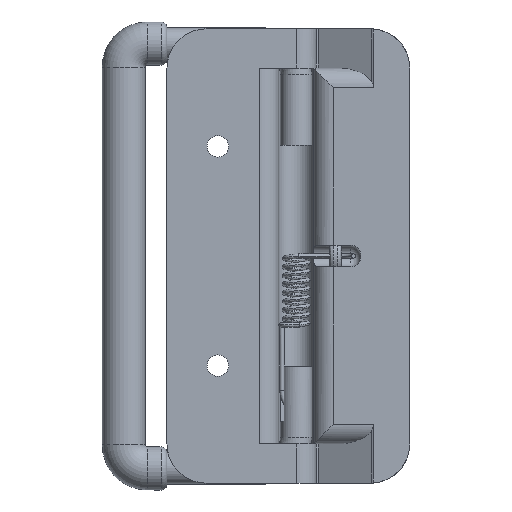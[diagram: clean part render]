
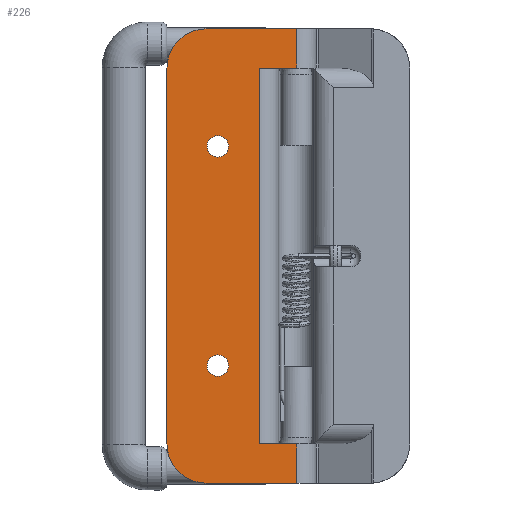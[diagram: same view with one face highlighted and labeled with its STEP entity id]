
A CAD part, front view. The second image highlights one B-rep face of the part: STEP entity #226.
In plain terms, the highlighted planar face has unit normal (0, -1, 0).
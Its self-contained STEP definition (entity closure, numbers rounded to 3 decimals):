
#52 = AXIS2_PLACEMENT_3D ( 'NONE', #3035, #8681, #3200 ) ;
#148 = CARTESIAN_POINT ( 'NONE',  ( -9.462, -2., -48. ) ) ;
#226 = ADVANCED_FACE ( 'NONE', ( #8736, #5575, #3092 ), #7951, .F. ) ;
#231 = DIRECTION ( 'NONE',  ( -1., 0., 0. ) ) ;
#327 = CARTESIAN_POINT ( 'NONE',  ( 0.14, -2., -48. ) ) ;
#331 = VERTEX_POINT ( 'NONE', #8163 ) ;
#386 = ORIENTED_EDGE ( 'NONE', *, *, #3118, .T. ) ;
#669 = CARTESIAN_POINT ( 'NONE',  ( -33., -2., 58. ) ) ;
#791 = DIRECTION ( 'NONE',  ( -1., 0., 0. ) ) ;
#924 = EDGE_CURVE ( 'NONE', #9336, #7228, #2608, .T. ) ;
#981 = EDGE_LOOP ( 'NONE', ( #7020, #6661 ) ) ;
#987 = DIRECTION ( 'NONE',  ( 0., 0., 1. ) ) ;
#1075 = VERTEX_POINT ( 'NONE', #7720 ) ;
#1170 = ORIENTED_EDGE ( 'NONE', *, *, #924, .T. ) ;
#1187 = DIRECTION ( 'NONE',  ( 0., 0., 1. ) ) ;
#1223 = CIRCLE ( 'NONE', #1731, 2.75 ) ;
#1293 = DIRECTION ( 'NONE',  ( 0., -1., 0. ) ) ;
#1338 = CARTESIAN_POINT ( 'NONE',  ( -20., -2., -28. ) ) ;
#1435 = AXIS2_PLACEMENT_3D ( 'NONE', #8571, #1293, #1187 ) ;
#1731 = AXIS2_PLACEMENT_3D ( 'NONE', #6306, #4617, #7836 ) ;
#1853 = VECTOR ( 'NONE', #2200, 1000. ) ;
#1934 = EDGE_CURVE ( 'NONE', #6645, #6069, #7025, .T. ) ;
#2022 = ORIENTED_EDGE ( 'NONE', *, *, #6218, .T. ) ;
#2159 = VERTEX_POINT ( 'NONE', #3215 ) ;
#2200 = DIRECTION ( 'NONE',  ( 0., 0., -1. ) ) ;
#2238 = VECTOR ( 'NONE', #6317, 1000. ) ;
#2350 = CARTESIAN_POINT ( 'NONE',  ( -33., -2., 48. ) ) ;
#2493 = ORIENTED_EDGE ( 'NONE', *, *, #9297, .T. ) ;
#2504 = CARTESIAN_POINT ( 'NONE',  ( -20., -2., -30.75 ) ) ;
#2608 = LINE ( 'NONE', #7520, #4763 ) ;
#2703 = VECTOR ( 'NONE', #231, 1000. ) ;
#2717 = VERTEX_POINT ( 'NONE', #4238 ) ;
#2848 = AXIS2_PLACEMENT_3D ( 'NONE', #7908, #7069, #8070 ) ;
#2876 = ORIENTED_EDGE ( 'NONE', *, *, #6019, .F. ) ;
#2923 = EDGE_CURVE ( 'NONE', #6088, #2159, #8342, .T. ) ;
#2928 = AXIS2_PLACEMENT_3D ( 'NONE', #4567, #6096, #7728 ) ;
#3035 = CARTESIAN_POINT ( 'NONE',  ( -4.462, -2., 48. ) ) ;
#3063 = DIRECTION ( 'NONE',  ( 0., 0., 1. ) ) ;
#3092 = FACE_OUTER_BOUND ( 'NONE', #6619, .T. ) ;
#3118 = EDGE_CURVE ( 'NONE', #1075, #3555, #5142, .T. ) ;
#3131 = EDGE_CURVE ( 'NONE', #9386, #4898, #6994, .T. ) ;
#3200 = DIRECTION ( 'NONE',  ( 0., 0., 1. ) ) ;
#3215 = CARTESIAN_POINT ( 'NONE',  ( -20., -2., 25.25 ) ) ;
#3231 = VECTOR ( 'NONE', #5511, 1000. ) ;
#3279 = CARTESIAN_POINT ( 'NONE',  ( 0.14, -2., 58. ) ) ;
#3338 = ORIENTED_EDGE ( 'NONE', *, *, #1934, .F. ) ;
#3452 = AXIS2_PLACEMENT_3D ( 'NONE', #6977, #4541, #3063 ) ;
#3476 = ORIENTED_EDGE ( 'NONE', *, *, #5833, .T. ) ;
#3555 = VERTEX_POINT ( 'NONE', #6245 ) ;
#3559 = CIRCLE ( 'NONE', #4750, 2.75 ) ;
#3586 = LINE ( 'NONE', #4229, #2703 ) ;
#3868 = ORIENTED_EDGE ( 'NONE', *, *, #2923, .T. ) ;
#4229 = CARTESIAN_POINT ( 'NONE',  ( -33., -2., -48. ) ) ;
#4238 = CARTESIAN_POINT ( 'NONE',  ( 0.14, -2., -58. ) ) ;
#4298 = ORIENTED_EDGE ( 'NONE', *, *, #9730, .T. ) ;
#4358 = DIRECTION ( 'NONE',  ( 0., 1., 0. ) ) ;
#4541 = DIRECTION ( 'NONE',  ( 0., 1., 0. ) ) ;
#4567 = CARTESIAN_POINT ( 'NONE',  ( -20., -2., -28. ) ) ;
#4594 = EDGE_CURVE ( 'NONE', #4898, #9386, #3559, .T. ) ;
#4617 = DIRECTION ( 'NONE',  ( 0., 1., 0. ) ) ;
#4719 = VECTOR ( 'NONE', #8804, 1000. ) ;
#4750 = AXIS2_PLACEMENT_3D ( 'NONE', #1338, #4358, #8512 ) ;
#4763 = VECTOR ( 'NONE', #987, 1000. ) ;
#4898 = VERTEX_POINT ( 'NONE', #7716 ) ;
#4956 = LINE ( 'NONE', #7378, #5223 ) ;
#5142 = CIRCLE ( 'NONE', #1435, 10. ) ;
#5223 = VECTOR ( 'NONE', #6591, 1000. ) ;
#5289 = VERTEX_POINT ( 'NONE', #327 ) ;
#5511 = DIRECTION ( 'NONE',  ( 0., 0., 1. ) ) ;
#5575 = FACE_BOUND ( 'NONE', #7143, .T. ) ;
#5691 = EDGE_CURVE ( 'NONE', #331, #7334, #7411, .T. ) ;
#5833 = EDGE_CURVE ( 'NONE', #7334, #1075, #8021, .T. ) ;
#6019 = EDGE_CURVE ( 'NONE', #2717, #3555, #4956, .T. ) ;
#6069 = VERTEX_POINT ( 'NONE', #7615 ) ;
#6088 = VERTEX_POINT ( 'NONE', #7778 ) ;
#6096 = DIRECTION ( 'NONE',  ( 0., 1., 0. ) ) ;
#6218 = EDGE_CURVE ( 'NONE', #2717, #5289, #8667, .T. ) ;
#6225 = CARTESIAN_POINT ( 'NONE',  ( 0.14, -2., 58. ) ) ;
#6233 = CARTESIAN_POINT ( 'NONE',  ( -33., -2., 48. ) ) ;
#6245 = CARTESIAN_POINT ( 'NONE',  ( -23., -2., -58. ) ) ;
#6306 = CARTESIAN_POINT ( 'NONE',  ( -20., -2., 28. ) ) ;
#6317 = DIRECTION ( 'NONE',  ( -1., 0., 0. ) ) ;
#6591 = DIRECTION ( 'NONE',  ( -1., 0., 0. ) ) ;
#6619 = EDGE_LOOP ( 'NONE', ( #3476, #386, #2876, #2022, #7540, #1170, #9368, #3338, #2493, #8069 ) ) ;
#6645 = VERTEX_POINT ( 'NONE', #3279 ) ;
#6661 = ORIENTED_EDGE ( 'NONE', *, *, #3131, .T. ) ;
#6977 = CARTESIAN_POINT ( 'NONE',  ( -20., -2., 28. ) ) ;
#6994 = CIRCLE ( 'NONE', #2928, 2.75 ) ;
#7000 = EDGE_CURVE ( 'NONE', #5289, #9336, #3586, .T. ) ;
#7020 = ORIENTED_EDGE ( 'NONE', *, *, #4594, .T. ) ;
#7025 = LINE ( 'NONE', #6225, #1853 ) ;
#7069 = DIRECTION ( 'NONE',  ( 0., -1., 0. ) ) ;
#7143 = EDGE_LOOP ( 'NONE', ( #3868, #4298 ) ) ;
#7228 = VERTEX_POINT ( 'NONE', #7231 ) ;
#7231 = CARTESIAN_POINT ( 'NONE',  ( -9.462, -2., 48. ) ) ;
#7302 = EDGE_CURVE ( 'NONE', #6069, #7228, #9576, .T. ) ;
#7334 = VERTEX_POINT ( 'NONE', #6233 ) ;
#7378 = CARTESIAN_POINT ( 'NONE',  ( -33., -2., -58. ) ) ;
#7411 = CIRCLE ( 'NONE', #2848, 10. ) ;
#7520 = CARTESIAN_POINT ( 'NONE',  ( -9.462, -2., 48. ) ) ;
#7540 = ORIENTED_EDGE ( 'NONE', *, *, #7000, .T. ) ;
#7615 = CARTESIAN_POINT ( 'NONE',  ( 0.14, -2., 48. ) ) ;
#7716 = CARTESIAN_POINT ( 'NONE',  ( -20., -2., -25.25 ) ) ;
#7720 = CARTESIAN_POINT ( 'NONE',  ( -33., -2., -48. ) ) ;
#7728 = DIRECTION ( 'NONE',  ( 0., 0., 1. ) ) ;
#7735 = LINE ( 'NONE', #669, #2238 ) ;
#7778 = CARTESIAN_POINT ( 'NONE',  ( -20., -2., 30.75 ) ) ;
#7836 = DIRECTION ( 'NONE',  ( 0., 0., 1. ) ) ;
#7908 = CARTESIAN_POINT ( 'NONE',  ( -23., -2., 48. ) ) ;
#7951 = PLANE ( 'NONE',  #52 ) ;
#8021 = LINE ( 'NONE', #2350, #4719 ) ;
#8069 = ORIENTED_EDGE ( 'NONE', *, *, #5691, .T. ) ;
#8070 = DIRECTION ( 'NONE',  ( 0., 0., 1. ) ) ;
#8071 = CARTESIAN_POINT ( 'NONE',  ( -33., -2., 48. ) ) ;
#8163 = CARTESIAN_POINT ( 'NONE',  ( -23., -2., 58. ) ) ;
#8342 = CIRCLE ( 'NONE', #3452, 2.75 ) ;
#8512 = DIRECTION ( 'NONE',  ( 0., 0., 1. ) ) ;
#8571 = CARTESIAN_POINT ( 'NONE',  ( -23., -2., -48. ) ) ;
#8667 = LINE ( 'NONE', #9506, #3231 ) ;
#8681 = DIRECTION ( 'NONE',  ( 0., 1., 0. ) ) ;
#8736 = FACE_BOUND ( 'NONE', #981, .T. ) ;
#8804 = DIRECTION ( 'NONE',  ( 0., 0., -1. ) ) ;
#9297 = EDGE_CURVE ( 'NONE', #6645, #331, #7735, .T. ) ;
#9336 = VERTEX_POINT ( 'NONE', #148 ) ;
#9368 = ORIENTED_EDGE ( 'NONE', *, *, #7302, .F. ) ;
#9386 = VERTEX_POINT ( 'NONE', #2504 ) ;
#9506 = CARTESIAN_POINT ( 'NONE',  ( 0.14, -2., -58. ) ) ;
#9576 = LINE ( 'NONE', #8071, #10295 ) ;
#9730 = EDGE_CURVE ( 'NONE', #2159, #6088, #1223, .T. ) ;
#10295 = VECTOR ( 'NONE', #791, 1000. ) ;
